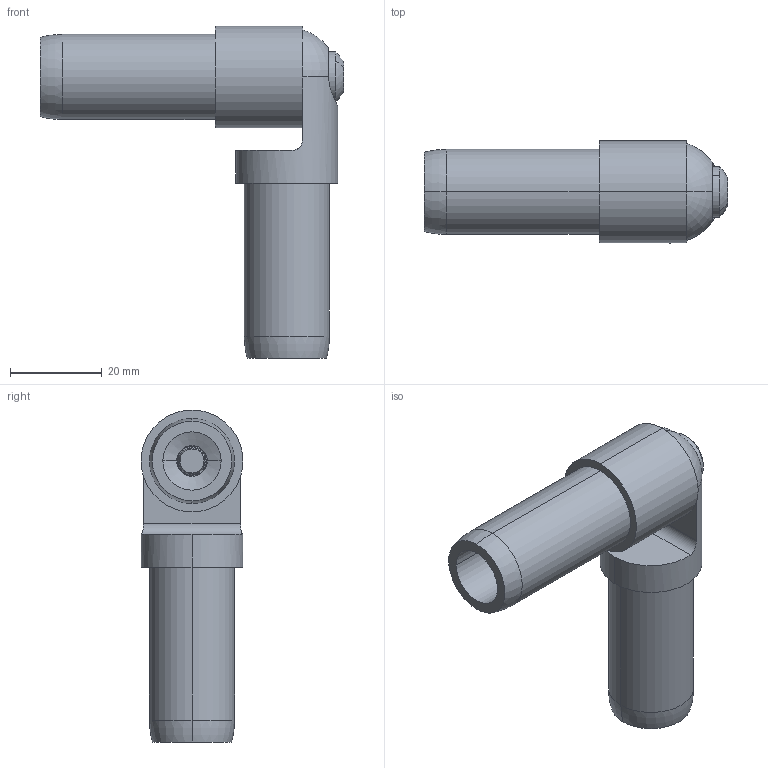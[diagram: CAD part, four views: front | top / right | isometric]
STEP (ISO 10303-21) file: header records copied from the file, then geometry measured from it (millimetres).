
FILE_DESCRIPTION (( 'STEP AP214' ), '1' );
FILE_NAME ('0.75 Inch In-Plane Adjustbale 2-Tube Joint Kit.STEP', '2014-01-09T15:37:11', ( 'ydmin' ), ( 'Microsoft' ), 'SwSTEP 2.0', 'SolidWorks 2013', '' );
FILE_SCHEMA (( 'AUTOMOTIVE_DESIGN' ));
Length unit declared in the file: inch
Products named in the file (1): 0.75 Inch In-Plane Adjustbale 2-Tube Joint Kit
Bounding box: 66.09 x 22.23 x 72.38 mm (x, y, z)
Volume: 23130.4 mm3; surface area: 13950.9 mm2
Topology: 4 solids, 4 shells, 202 faces, 426 edges, 235 vertices
Faces by surface type: cylinder 81, cone 79, plane 26, bspline 8, torus 6, sphere 2
Entity records: 13317 total; most frequent: CARTESIAN_POINT 6490, DIRECTION 857, ORIENTED_EDGE 848, EDGE_CURVE 424, AXIS2_PLACEMENT_3D 337, VERTEX_POINT 235, EDGE_LOOP 211, UNCERTAINTY_MEASURE_WITH_UNIT 208
